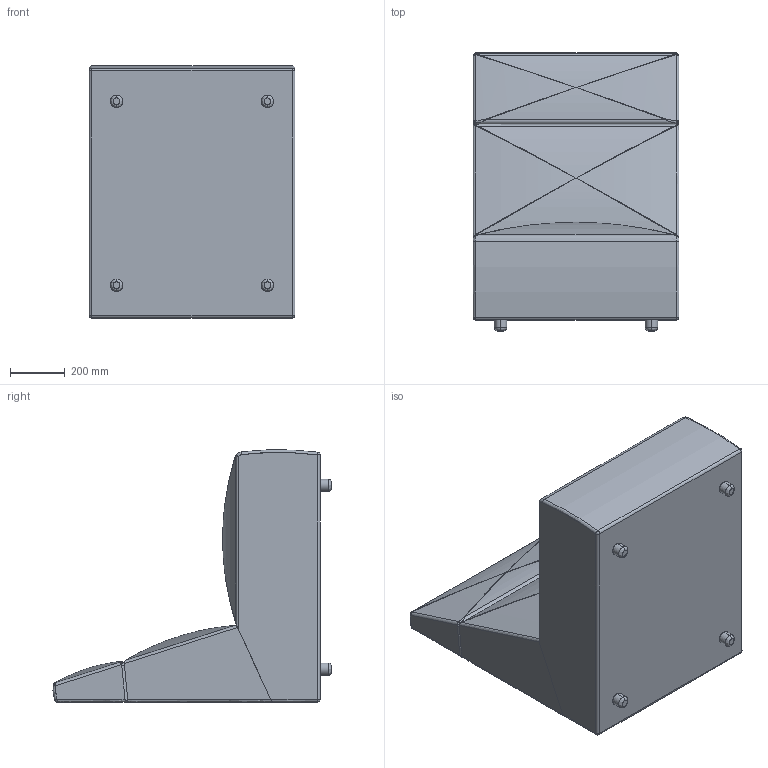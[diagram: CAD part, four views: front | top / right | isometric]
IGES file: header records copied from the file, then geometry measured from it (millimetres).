
Start section: SolidWorks IGES file using analytic representation for surfaces
Global section: file name: \\Logicserver\datos\01-VICCARBE\PRODUCTOS\53-SISTEMA\04-MODELADOS (PLANOS)\WEB\viccarbe-sistema-3D\Modulos\Modulo alto grueso.IGS; native system: SolidWorks 2013; preprocessor: SolidWorks 2013; author: bdisenyo; date: 170120.105928; units: millimetre
Bounding box: 750 x 1013.81 x 919.29 mm (x, y, z)
Surface area: 4151519.7 mm2 (no closed solid volume)
Topology: 0 solids, 0 shells, 109 faces, 1321 edges, 1307 vertices
Faces by surface type: revolution 55, bspline 54
